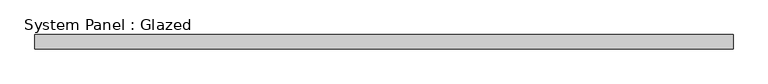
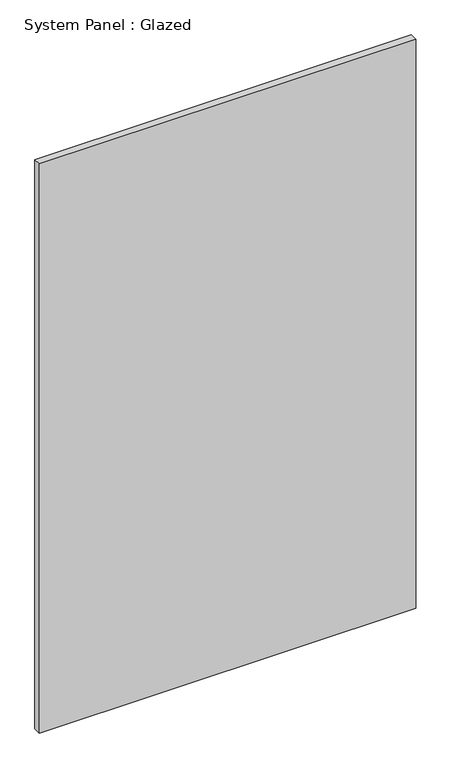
"""IFC4 building model written with IfcOpenShell, lengths in millimetres: plate geometry, System Panel : Glazed."""

import ifcopenshell
import ifcopenshell.guid

model = None  # the IFC model being written
_history = None  # IfcOwnerHistory: only IFC2X3 demands one
_inside = {}  # id of a spatial element -> (the spatial element, [elements in it])
_under = {}  # id of a project, library or spatial element -> (it, [spatial elements below it])
_declared = {}  # id of a project -> (the project, [libraries it declares])
_typed = {}  # id of a type object -> (the type object, [elements of that type])
_made_of = {}  # id of a material, layer set ... -> (it, [elements and type objects made of it])


def new_model(schema):
    """Start an empty IFC model of exactly this schema.

    Asked for "IFC4X3", IfcOpenShell would pick the latest addendum, in which some entities
    have other attributes; the version numbers below select the first issue.
    IFC2X3 requires an IfcOwnerHistory on every rooted entity: one is made here for all.
    """
    global model, _history
    if schema == "IFC4X3":
        model = ifcopenshell.file(schema_version=(4, 3, 0, 0))
    else:
        model = ifcopenshell.file(schema=schema)
    _inside.clear()
    _under.clear()
    _declared.clear()
    _typed.clear()
    _made_of.clear()
    _history = None
    if model.schema == "IFC2X3":
        org = make("IfcOrganization", Name="unknown")
        user = make(
            "IfcPersonAndOrganization",
            ThePerson=make("IfcPerson", FamilyName="unknown"),
            TheOrganization=org,
        )
        app = make(
            "IfcApplication",
            ApplicationDeveloper=org,
            Version="unknown",
            ApplicationFullName="unknown",
            ApplicationIdentifier="unknown",
        )
        _history = make(
            "IfcOwnerHistory",
            OwningUser=user,
            OwningApplication=app,
            ChangeAction="ADDED",
            CreationDate=0,
        )
    return model


def make(cls, **values):
    """One entity of the class cls with the attributes given. An attribute that is None is left unset."""
    return model.create_entity(
        cls, **{name: value for name, value in values.items() if value is not None}
    )


def rooted(cls, **values):
    """An entity with a GlobalId (a new one), such as an element, a storey or a relation."""
    return make(cls, GlobalId=ifcopenshell.guid.new(), OwnerHistory=_history, **values)


def si_unit(unit_type, name, prefix=None):
    """IfcSIUnit, for example si_unit("LENGTHUNIT", "METRE", prefix="MILLI")."""
    return make("IfcSIUnit", UnitType=unit_type, Prefix=prefix, Name=name)


def assignment(units):
    """IfcUnitAssignment: the units of a project."""
    return None if units is None else make("IfcUnitAssignment", Units=units)


def point(xyz):
    """IfcCartesianPoint."""
    return None if xyz is None else make("IfcCartesianPoint", Coordinates=xyz)


def direction(xyz):
    """IfcDirection."""
    return None if xyz is None else make("IfcDirection", DirectionRatios=xyz)


def frame(location, z_axis=None, x_axis=None):
    """IfcAxis2Placement3D, a coordinate frame: its origin and axes. An axis left out is left unset."""
    return make(
        "IfcAxis2Placement3D",
        Location=point(location),
        Axis=direction(z_axis),
        RefDirection=direction(x_axis),
    )


def origin():
    """The frame at (0, 0, 0) with its axes left unset."""
    return frame((0.0, 0.0, 0.0))


def origin_with_axes():
    """The frame at (0, 0, 0) with the z axis (0, 0, 1) and the x axis (1, 0, 0) written out."""
    return frame((0.0, 0.0, 0.0), z_axis=(0.0, 0.0, 1.0), x_axis=(1.0, 0.0, 0.0))


def place(relative_to, where):
    """IfcLocalPlacement: puts the frame where relative to a parent placement (None: the world)."""
    return make(
        "IfcLocalPlacement", PlacementRelTo=relative_to, RelativePlacement=where
    )


def context(
    kind, dimensions, precision=None, world=None, true_north=None, identifier=None
):
    """IfcGeometricRepresentationContext, for example the 3D "Model" context."""
    return make(
        "IfcGeometricRepresentationContext",
        ContextIdentifier=identifier,
        ContextType=kind,
        CoordinateSpaceDimension=dimensions,
        Precision=precision,
        WorldCoordinateSystem=world,
        TrueNorth=true_north,
    )


def project(units=None, contexts=None):
    """IfcProject with its units and contexts."""
    return rooted(
        "IfcProject",
        Name="project",
        RepresentationContexts=contexts,
        UnitsInContext=assignment(units),
    )


def spatial(cls, under=None, at=None, **own):
    """A site, building, storey or space (cls), placed at a placement, below another one or the project."""
    s = rooted(cls, ObjectPlacement=at, **own)
    if under is not None:
        _under.setdefault(under.id(), (under, []))[1].append(s)
    return s


def polyline(points):
    """IfcPolyline through the points."""
    return make("IfcPolyline", Points=[point(p) for p in points])


def outline(outer, holes=None, kind="AREA"):
    """IfcArbitraryClosedProfileDef: a profile drawn as a closed curve; with holes, ...WithVoids."""
    if holes is None:
        return make("IfcArbitraryClosedProfileDef", ProfileType=kind, OuterCurve=outer)
    return make(
        "IfcArbitraryProfileDefWithVoids",
        ProfileType=kind,
        OuterCurve=outer,
        InnerCurves=holes,
    )


def extrude(swept, where, along, depth):
    """IfcExtrudedAreaSolid: the profile swept, set in the frame where, extruded along a direction by depth."""
    return make(
        "IfcExtrudedAreaSolid",
        SweptArea=swept,
        Position=where,
        ExtrudedDirection=direction(along),
        Depth=depth,
    )


def shape(context_of_items, identifier, shape_type, items):
    """IfcShapeRepresentation: the items that make up one representation, for example the "Body"."""
    return make(
        "IfcShapeRepresentation",
        ContextOfItems=context_of_items,
        RepresentationIdentifier=identifier,
        RepresentationType=shape_type,
        Items=items,
    )


def source(mapping_origin, context_of_items, identifier, shape_type, items):
    """IfcRepresentationMap: a shape defined once, which mapped items show again and again."""
    return make(
        "IfcRepresentationMap",
        MappingOrigin=mapping_origin,
        MappedRepresentation=shape(context_of_items, identifier, shape_type, items),
    )


def transform(
    local_origin,
    x_axis=None,
    y_axis=None,
    z_axis=None,
    scale=None,
    scale2=None,
    scale3=None,
    uniform=True,
):
    """IfcCartesianTransformationOperator3D, or its non-uniform kind. x_axis, y_axis, z_axis: its Axis1, 2, 3."""
    if uniform:
        return make(
            "IfcCartesianTransformationOperator3D",
            Axis1=direction(x_axis),
            Axis2=direction(y_axis),
            LocalOrigin=point(local_origin),
            Scale=scale,
            Axis3=direction(z_axis),
        )
    return make(
        "IfcCartesianTransformationOperator3DnonUniform",
        Axis1=direction(x_axis),
        Axis2=direction(y_axis),
        LocalOrigin=point(local_origin),
        Scale=scale,
        Axis3=direction(z_axis),
        Scale2=scale2,
        Scale3=scale3,
    )


def mapped(mapping_source, mapping_target):
    """IfcMappedItem: shows the shape of a source again, moved by a transform."""
    return make(
        "IfcMappedItem", MappingSource=mapping_source, MappingTarget=mapping_target
    )


def made_of(thing, what):
    """Note that an element or type object is made of a material, layer set ...; save() writes the relation."""
    if what is not None:
        _made_of.setdefault(what.id(), (what, []))[1].append(thing)
    return thing


def element(
    cls,
    number,
    at=None,
    inside=None,
    cuts=None,
    type_object=None,
    material=None,
    context=None,
    identifier="Body",
    shape_type=None,
    held_by="IfcProductDefinitionShape",
    body=None,
    shapes=None,
    **own,
):
    """One element of the class cls, such as IfcWall. Its Tag is "e" and its number.

    at: its placement. inside: the storey or other place that contains it. cuts: it is an
    opening in that element (IfcRelVoidsElement). A single representation is given by context,
    identifier, shape_type and body (its items); several are given by shapes. held_by: the class
    of the entity that holds the representations. save() writes the other relations.
    """
    e = rooted(cls, Tag="e%d" % number, ObjectPlacement=at, **own)
    if body is not None:
        shapes = [shape(context, identifier, shape_type, body)]
    if shapes is not None:
        e.Representation = make(held_by, Representations=shapes)
    if inside is not None:
        _inside.setdefault(inside.id(), (inside, []))[1].append(e)
    if cuts is not None:
        rooted(
            "IfcRelVoidsElement", RelatingBuildingElement=cuts, RelatedOpeningElement=e
        )
    if type_object is not None:
        _typed.setdefault(type_object.id(), (type_object, []))[1].append(e)
    return made_of(e, material)


def aggregate(whole, parts):
    """IfcRelAggregates: a whole, such as a stair, and the parts it consists of."""
    return rooted("IfcRelAggregates", RelatingObject=whole, RelatedObjects=parts)


def save(model, path):
    """Write the relations noted so far, then the file.

    IfcRelAggregates (storeys below a building ...), IfcRelContainedInSpatialStructure (elements
    in a storey), IfcRelDefinesByType, IfcRelAssociatesMaterial and IfcRelDeclares: one each for
    every whole, place, type object, material and project.
    """
    for whole, parts in _under.values():
        aggregate(whole, parts)
    for where, things in _inside.values():
        rooted(
            "IfcRelContainedInSpatialStructure",
            RelatedElements=things,
            RelatingStructure=where,
        )
    for kind, things in _typed.values():
        rooted("IfcRelDefinesByType", RelatedObjects=things, RelatingType=kind)
    for what, things in _made_of.values():
        rooted("IfcRelAssociatesMaterial", RelatedObjects=things, RelatingMaterial=what)
    for by, libraries in _declared.values():
        rooted("IfcRelDeclares", RelatingContext=by, RelatedDefinitions=libraries)
    model.write(path)


def system_panel_glazed_63f175b4(model_context):
    return source(origin(), model_context, "Body", "SweptSolid", [
        extrude(outline(polyline([(624.6304785, 19.05), (-624.6304785, 19.05), (-624.6304785, 44.45), (624.6304785, 44.45), (624.6304785, 19.05)])), origin_with_axes(), (0.0, 0.0, 1.0), 1996.44),
    ])


if __name__ == "__main__":
    model = new_model("IFC4")
    model_context = context("Model", 3, world=origin())
    ifc_project = project(units=[si_unit("LENGTHUNIT", "METRE", prefix="MILLI")], contexts=[model_context])
    site = spatial("IfcSite", under=ifc_project)
    building = spatial("IfcBuilding", under=site)
    placement = place(None, origin())
    system_panel_glazed_shape = system_panel_glazed_63f175b4(model_context)
    element("IfcPlate", 1, ObjectType="System Panel : Glazed", at=placement, inside=building, context=model_context, shape_type="MappedRepresentation", body=[
        mapped(system_panel_glazed_shape, transform((0.0, 0.0, 0.0), x_axis=(1.0, 0.0, 0.0), y_axis=(0.0, 1.0, 0.0), z_axis=(0.0, 0.0, 1.0))),
    ])
    save(model, "model.ifc")
